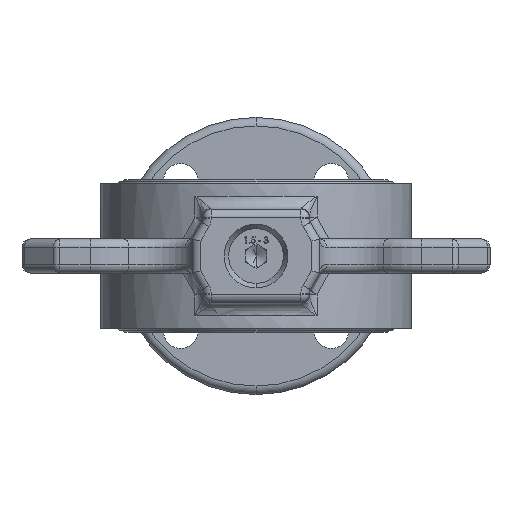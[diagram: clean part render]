
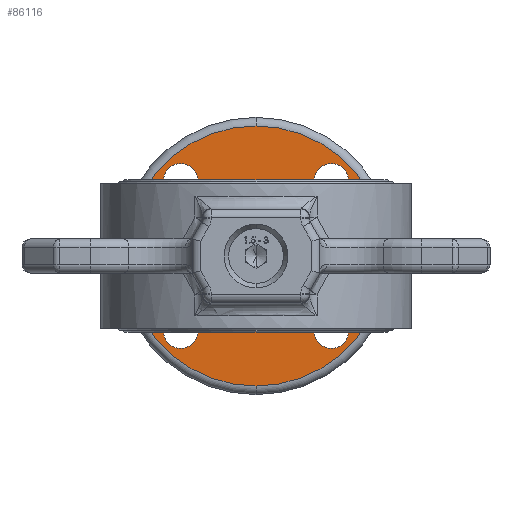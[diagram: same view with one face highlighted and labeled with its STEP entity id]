
A CAD part, front view. The second image highlights one B-rep face of the part: STEP entity #86116.
In plain terms, the highlighted planar face has unit normal (0, -1, 0).
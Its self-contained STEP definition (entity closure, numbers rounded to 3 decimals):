
#2698 = CARTESIAN_POINT ( 'NONE',  ( -17.678, 123., 17.678 ) ) ;
#2699 = DIRECTION ( 'NONE',  ( 0., -1., 0. ) ) ;
#2700 = DIRECTION ( 'NONE',  ( 0., 0., 1. ) ) ;
#2710 = CARTESIAN_POINT ( 'NONE',  ( 17.678, 123., 17.678 ) ) ;
#2711 = DIRECTION ( 'NONE',  ( 0., -1., 0. ) ) ;
#2712 = DIRECTION ( 'NONE',  ( 0., 0., 1. ) ) ;
#2722 = CARTESIAN_POINT ( 'NONE',  ( 17.678, 123., -17.678 ) ) ;
#2723 = DIRECTION ( 'NONE',  ( 0., -1., 0. ) ) ;
#2724 = DIRECTION ( 'NONE',  ( 0., 0., 1. ) ) ;
#2734 = CARTESIAN_POINT ( 'NONE',  ( -17.678, 123., -17.678 ) ) ;
#2735 = DIRECTION ( 'NONE',  ( 0., -1., 0. ) ) ;
#2736 = DIRECTION ( 'NONE',  ( 0., 0., 1. ) ) ;
#9704 = CIRCLE ( 'NONE', #9709, 24.571 ) ;
#9709 = AXIS2_PLACEMENT_3D ( 'NONE', #14894, #14895, #14897 ) ;
#9780 = CIRCLE ( 'NONE', #9787, 30.5 ) ;
#9787 = AXIS2_PLACEMENT_3D ( 'NONE', #15147, #15149, #15151 ) ;
#14894 = CARTESIAN_POINT ( 'NONE',  ( 0., 123., -8.571 ) ) ;
#14895 = DIRECTION ( 'NONE',  ( 0., 1., 0. ) ) ;
#14897 = DIRECTION ( 'NONE',  ( 0., 0., 1. ) ) ;
#15147 = CARTESIAN_POINT ( 'NONE',  ( 0., 123., 0. ) ) ;
#15149 = DIRECTION ( 'NONE',  ( 0., -1., 0. ) ) ;
#15151 = DIRECTION ( 'NONE',  ( 0., 0., -1. ) ) ;
#17905 = CARTESIAN_POINT ( 'NONE',  ( -20., 123., 5.703 ) ) ;
#17924 = CARTESIAN_POINT ( 'NONE',  ( 20., 123., -5.703 ) ) ;
#17941 = CARTESIAN_POINT ( 'NONE',  ( -20., 123., -5.703 ) ) ;
#46341 = AXIS2_PLACEMENT_3D ( 'NONE', #2722, #2723, #2724 ) ;
#46342 = AXIS2_PLACEMENT_3D ( 'NONE', #2734, #2735, #2736 ) ;
#46344 = CIRCLE ( 'NONE', #46341, 4. ) ;
#46345 = AXIS2_PLACEMENT_3D ( 'NONE', #2698, #2699, #2700 ) ;
#46348 = AXIS2_PLACEMENT_3D ( 'NONE', #2710, #2711, #2712 ) ;
#46352 = CIRCLE ( 'NONE', #46342, 4. ) ;
#46354 = CIRCLE ( 'NONE', #46345, 4. ) ;
#46355 = CIRCLE ( 'NONE', #46348, 4. ) ;
#61427 = EDGE_LOOP ( 'NONE', ( #117390, #117391 ) ) ;
#61429 = EDGE_LOOP ( 'NONE', ( #117398, #117399, #117400, #117401, #117402 ) ) ;
#61432 = EDGE_LOOP ( 'NONE', ( #117396, #117397 ) ) ;
#61438 = EDGE_LOOP ( 'NONE', ( #117388, #117389 ) ) ;
#61439 = EDGE_LOOP ( 'NONE', ( #117394, #117395 ) ) ;
#61441 = EDGE_LOOP ( 'NONE', ( #117392, #117393 ) ) ;
#63483 = FACE_BOUND ( 'NONE', #61427, .T. ) ;
#63492 = FACE_BOUND ( 'NONE', #61432, .T. ) ;
#63495 = FACE_OUTER_BOUND ( 'NONE', #61438, .T. ) ;
#63498 = FACE_BOUND ( 'NONE', #61429, .T. ) ;
#63504 = FACE_BOUND ( 'NONE', #61441, .T. ) ;
#63507 = CARTESIAN_POINT ( 'NONE',  ( 0., 123., 0. ) ) ;
#63510 = FACE_BOUND ( 'NONE', #61439, .T. ) ;
#63516 = PLANE ( 'NONE',  #70147 ) ;
#63519 = DIRECTION ( 'NONE',  ( 0., 1., 0. ) ) ;
#63522 = DIRECTION ( 'NONE',  ( 0., 0., 1. ) ) ;
#70147 = AXIS2_PLACEMENT_3D ( 'NONE', #63507, #63519, #63522 ) ;
#71583 = VECTOR ( 'NONE', #152159, 1000. ) ;
#71587 = CIRCLE ( 'NONE', #71592, 30.5 ) ;
#71592 = AXIS2_PLACEMENT_3D ( 'NONE', #152123, #152126, #152130 ) ;
#71594 = CIRCLE ( 'NONE', #71600, 24.571 ) ;
#71600 = AXIS2_PLACEMENT_3D ( 'NONE', #152144, #152149, #152153 ) ;
#71604 = CIRCLE ( 'NONE', #71610, 24.571 ) ;
#71607 = VECTOR ( 'NONE', #152194, 1000. ) ;
#71610 = AXIS2_PLACEMENT_3D ( 'NONE', #152181, #152185, #152188 ) ;
#84349 = EDGE_CURVE ( 'NONE', #124404, #124402, #46354, .T. ) ;
#84363 = EDGE_CURVE ( 'NONE', #124366, #124378, #46355, .T. ) ;
#84375 = EDGE_CURVE ( 'NONE', #124374, #124776, #46344, .T. ) ;
#84389 = EDGE_CURVE ( 'NONE', #124780, #124762, #46352, .T. ) ;
#86116 = ADVANCED_FACE ( 'NONE', ( #63495, #63483, #63504, #63510, #63492, #63498 ), #63516, .F. ) ;
#86942 = EDGE_CURVE ( 'NONE', #124596, #124428, #71587, .T. ) ;
#86943 = EDGE_CURVE ( 'NONE', #142228, #124326, #71594, .T. ) ;
#86944 = EDGE_CURVE ( 'NONE', #124364, #142224, #152140, .T. ) ;
#86945 = EDGE_CURVE ( 'NONE', #142224, #142232, #71604, .T. ) ;
#86946 = EDGE_CURVE ( 'NONE', #142232, #142228, #147934, .T. ) ;
#95654 = AXIS2_PLACEMENT_3D ( 'NONE', #113132, #113135, #113137 ) ;
#95744 = CIRCLE ( 'NONE', #95801, 4. ) ;
#95789 = CIRCLE ( 'NONE', #95654, 4. ) ;
#95801 = AXIS2_PLACEMENT_3D ( 'NONE', #113144, #113146, #113149 ) ;
#95805 = CIRCLE ( 'NONE', #95812, 4. ) ;
#95812 = AXIS2_PLACEMENT_3D ( 'NONE', #113167, #113170, #113173 ) ;
#95896 = CIRCLE ( 'NONE', #95923, 4. ) ;
#95923 = AXIS2_PLACEMENT_3D ( 'NONE', #113519, #113522, #113525 ) ;
#99847 = CARTESIAN_POINT ( 'NONE',  ( 0., 123., 16. ) ) ;
#99869 = CARTESIAN_POINT ( 'NONE',  ( 20., 123., 5.703 ) ) ;
#99878 = CARTESIAN_POINT ( 'NONE',  ( 17.678, 123., -13.678 ) ) ;
#99880 = CARTESIAN_POINT ( 'NONE',  ( 17.678, 123., 21.678 ) ) ;
#99882 = CARTESIAN_POINT ( 'NONE',  ( 17.678, 123., 13.678 ) ) ;
#99912 = CARTESIAN_POINT ( 'NONE',  ( -17.678, 123., 13.678 ) ) ;
#99914 = CARTESIAN_POINT ( 'NONE',  ( -17.678, 123., 21.678 ) ) ;
#99937 = CARTESIAN_POINT ( 'NONE',  ( 0., 123., -30.5 ) ) ;
#100099 = CARTESIAN_POINT ( 'NONE',  ( 0., 123., 30.5 ) ) ;
#100252 = CARTESIAN_POINT ( 'NONE',  ( -17.678, 123., -21.678 ) ) ;
#100268 = CARTESIAN_POINT ( 'NONE',  ( 17.678, 123., -21.678 ) ) ;
#100272 = CARTESIAN_POINT ( 'NONE',  ( -17.678, 123., -13.678 ) ) ;
#113132 = CARTESIAN_POINT ( 'NONE',  ( 17.678, 123., 17.678 ) ) ;
#113135 = DIRECTION ( 'NONE',  ( 0., -1., 0. ) ) ;
#113137 = DIRECTION ( 'NONE',  ( 0., 0., 1. ) ) ;
#113144 = CARTESIAN_POINT ( 'NONE',  ( 17.678, 123., -17.678 ) ) ;
#113146 = DIRECTION ( 'NONE',  ( 0., -1., 0. ) ) ;
#113149 = DIRECTION ( 'NONE',  ( 0., 0., 1. ) ) ;
#113167 = CARTESIAN_POINT ( 'NONE',  ( -17.678, 123., -17.678 ) ) ;
#113170 = DIRECTION ( 'NONE',  ( 0., -1., 0. ) ) ;
#113173 = DIRECTION ( 'NONE',  ( 0., 0., 1. ) ) ;
#113519 = CARTESIAN_POINT ( 'NONE',  ( -17.678, 123., 17.678 ) ) ;
#113522 = DIRECTION ( 'NONE',  ( 0., -1., 0. ) ) ;
#113525 = DIRECTION ( 'NONE',  ( 0., 0., 1. ) ) ;
#114761 = EDGE_CURVE ( 'NONE', #124326, #124364, #9704, .T. ) ;
#114868 = EDGE_CURVE ( 'NONE', #124428, #124596, #9780, .T. ) ;
#117388 = ORIENTED_EDGE ( 'NONE', *, *, #114868, .T. ) ;
#117389 = ORIENTED_EDGE ( 'NONE', *, *, #86942, .T. ) ;
#117390 = ORIENTED_EDGE ( 'NONE', *, *, #84349, .F. ) ;
#117391 = ORIENTED_EDGE ( 'NONE', *, *, #137681, .F. ) ;
#117392 = ORIENTED_EDGE ( 'NONE', *, *, #84363, .F. ) ;
#117393 = ORIENTED_EDGE ( 'NONE', *, *, #137650, .F. ) ;
#117394 = ORIENTED_EDGE ( 'NONE', *, *, #84375, .F. ) ;
#117395 = ORIENTED_EDGE ( 'NONE', *, *, #137651, .F. ) ;
#117396 = ORIENTED_EDGE ( 'NONE', *, *, #84389, .F. ) ;
#117397 = ORIENTED_EDGE ( 'NONE', *, *, #137653, .F. ) ;
#117398 = ORIENTED_EDGE ( 'NONE', *, *, #86943, .T. ) ;
#117399 = ORIENTED_EDGE ( 'NONE', *, *, #114761, .T. ) ;
#117400 = ORIENTED_EDGE ( 'NONE', *, *, #86944, .T. ) ;
#117401 = ORIENTED_EDGE ( 'NONE', *, *, #86945, .T. ) ;
#117402 = ORIENTED_EDGE ( 'NONE', *, *, #86946, .T. ) ;
#124326 = VERTEX_POINT ( 'NONE', #99847 ) ;
#124364 = VERTEX_POINT ( 'NONE', #99869 ) ;
#124366 = VERTEX_POINT ( 'NONE', #99880 ) ;
#124374 = VERTEX_POINT ( 'NONE', #99878 ) ;
#124378 = VERTEX_POINT ( 'NONE', #99882 ) ;
#124402 = VERTEX_POINT ( 'NONE', #99912 ) ;
#124404 = VERTEX_POINT ( 'NONE', #99914 ) ;
#124428 = VERTEX_POINT ( 'NONE', #99937 ) ;
#124596 = VERTEX_POINT ( 'NONE', #100099 ) ;
#124762 = VERTEX_POINT ( 'NONE', #100252 ) ;
#124776 = VERTEX_POINT ( 'NONE', #100268 ) ;
#124780 = VERTEX_POINT ( 'NONE', #100272 ) ;
#137650 = EDGE_CURVE ( 'NONE', #124378, #124366, #95789, .T. ) ;
#137651 = EDGE_CURVE ( 'NONE', #124776, #124374, #95744, .T. ) ;
#137653 = EDGE_CURVE ( 'NONE', #124762, #124780, #95805, .T. ) ;
#137681 = EDGE_CURVE ( 'NONE', #124402, #124404, #95896, .T. ) ;
#142224 = VERTEX_POINT ( 'NONE', #17924 ) ;
#142228 = VERTEX_POINT ( 'NONE', #17905 ) ;
#142232 = VERTEX_POINT ( 'NONE', #17941 ) ;
#147934 = LINE ( 'NONE', #152135, #71607 ) ;
#152116 = CARTESIAN_POINT ( 'NONE',  ( 20., 123., -4. ) ) ;
#152123 = CARTESIAN_POINT ( 'NONE',  ( 0., 123., 0. ) ) ;
#152126 = DIRECTION ( 'NONE',  ( 0., -1., 0. ) ) ;
#152130 = DIRECTION ( 'NONE',  ( 0., 0., -1. ) ) ;
#152135 = CARTESIAN_POINT ( 'NONE',  ( -20., 123., 4. ) ) ;
#152140 = LINE ( 'NONE', #152116, #71583 ) ;
#152144 = CARTESIAN_POINT ( 'NONE',  ( 0., 123., -8.571 ) ) ;
#152149 = DIRECTION ( 'NONE',  ( 0., 1., 0. ) ) ;
#152153 = DIRECTION ( 'NONE',  ( 0., 0., 1. ) ) ;
#152159 = DIRECTION ( 'NONE',  ( 0., 0., -1. ) ) ;
#152181 = CARTESIAN_POINT ( 'NONE',  ( 0., 123., 8.571 ) ) ;
#152185 = DIRECTION ( 'NONE',  ( 0., 1., 0. ) ) ;
#152188 = DIRECTION ( 'NONE',  ( 0., 0., 1. ) ) ;
#152194 = DIRECTION ( 'NONE',  ( 0., 0., 1. ) ) ;
